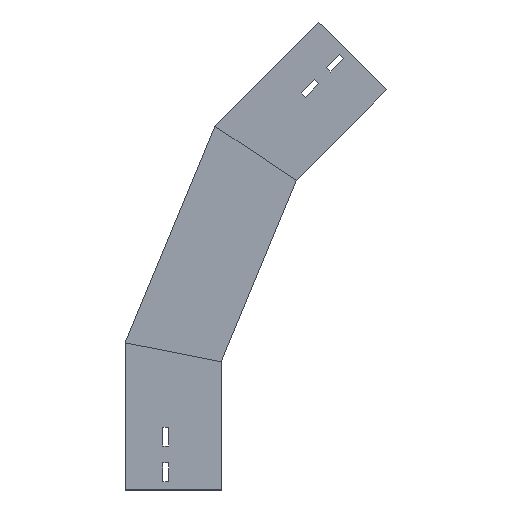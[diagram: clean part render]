
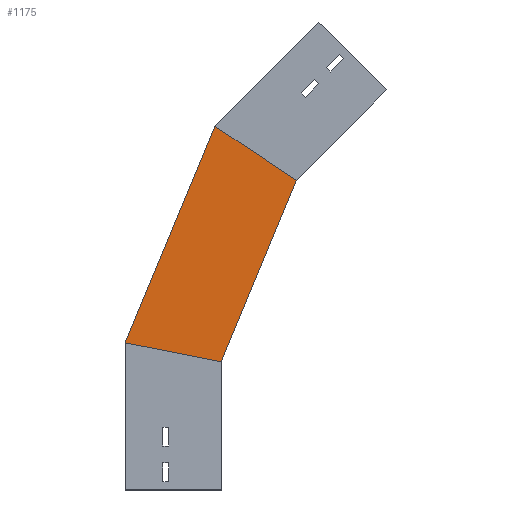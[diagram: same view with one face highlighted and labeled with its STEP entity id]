
A CAD part, left-side view. The second image highlights one B-rep face of the part: STEP entity #1175.
In plain terms, the highlighted planar face has unit normal (-1, 0, 0) as drawn and (1, 0, 0) by its records, which use the part's own axes.
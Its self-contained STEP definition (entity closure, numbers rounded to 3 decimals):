
#3 = VERTEX_POINT ( 'NONE', #585 ) ;
#8 = FACE_OUTER_BOUND ( 'NONE', #87, .T. ) ;
#14 = VECTOR ( 'NONE', #1490, 1000. ) ;
#74 = VECTOR ( 'NONE', #726, 1000. ) ;
#87 = EDGE_LOOP ( 'NONE', ( #1023, #295, #1323, #1245 ) ) ;
#100 = CARTESIAN_POINT ( 'NONE',  ( 0., -129.335, 334.885 ) ) ;
#119 = EDGE_CURVE ( 'NONE', #1123, #801, #1157, .T. ) ;
#122 = CARTESIAN_POINT ( 'NONE',  ( 0., 112.5, 172.378 ) ) ;
#133 = PLANE ( 'NONE',  #889 ) ;
#163 = VECTOR ( 'NONE', #1390, 1000. ) ;
#220 = CARTESIAN_POINT ( 'NONE',  ( 0., -28.701, 144.291 ) ) ;
#295 = ORIENTED_EDGE ( 'NONE', *, *, #1193, .T. ) ;
#485 = CARTESIAN_POINT ( 'NONE',  ( 0., 9.458, 127.166 ) ) ;
#585 = CARTESIAN_POINT ( 'NONE',  ( 0., -88.017, 362.492 ) ) ;
#726 = DIRECTION ( 'NONE',  ( 0., -0.383, 0.924 ) ) ;
#752 = CARTESIAN_POINT ( 'NONE',  ( 0., 7.356, 426.218 ) ) ;
#801 = VERTEX_POINT ( 'NONE', #752 ) ;
#837 = DIRECTION ( 'NONE',  ( 0., 0., -1. ) ) ;
#851 = LINE ( 'NONE', #947, #918 ) ;
#889 = AXIS2_PLACEMENT_3D ( 'NONE', #485, #1272, #837 ) ;
#918 = VECTOR ( 'NONE', #955, 1000. ) ;
#941 = LINE ( 'NONE', #100, #163 ) ;
#947 = CARTESIAN_POINT ( 'NONE',  ( 0., 9.458, 127.166 ) ) ;
#955 = DIRECTION ( 'NONE',  ( 0., -0.383, 0.924 ) ) ;
#1023 = ORIENTED_EDGE ( 'NONE', *, *, #119, .T. ) ;
#1062 = LINE ( 'NONE', #220, #14 ) ;
#1118 = EDGE_CURVE ( 'NONE', #1427, #3, #851, .T. ) ;
#1123 = VERTEX_POINT ( 'NONE', #122 ) ;
#1151 = EDGE_CURVE ( 'NONE', #1123, #1427, #1062, .T. ) ;
#1157 = LINE ( 'NONE', #1498, #74 ) ;
#1175 = ADVANCED_FACE ( 'NONE', ( #8 ), #133, .T. ) ;
#1193 = EDGE_CURVE ( 'NONE', #801, #3, #941, .T. ) ;
#1245 = ORIENTED_EDGE ( 'NONE', *, *, #1151, .F. ) ;
#1272 = DIRECTION ( 'NONE',  ( 1., 0., 0. ) ) ;
#1323 = ORIENTED_EDGE ( 'NONE', *, *, #1118, .F. ) ;
#1353 = CARTESIAN_POINT ( 'NONE',  ( 0., 0., 150. ) ) ;
#1390 = DIRECTION ( 'NONE',  ( 0., -0.831, -0.556 ) ) ;
#1427 = VERTEX_POINT ( 'NONE', #1353 ) ;
#1490 = DIRECTION ( 'NONE',  ( 0., -0.981, -0.195 ) ) ;
#1498 = CARTESIAN_POINT ( 'NONE',  ( 0., 113.395, 170.218 ) ) ;
